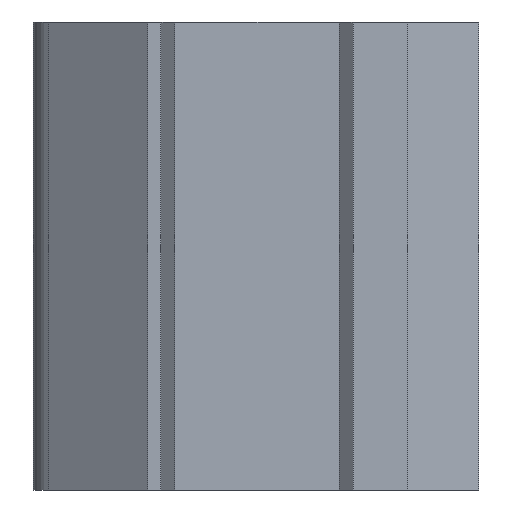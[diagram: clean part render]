
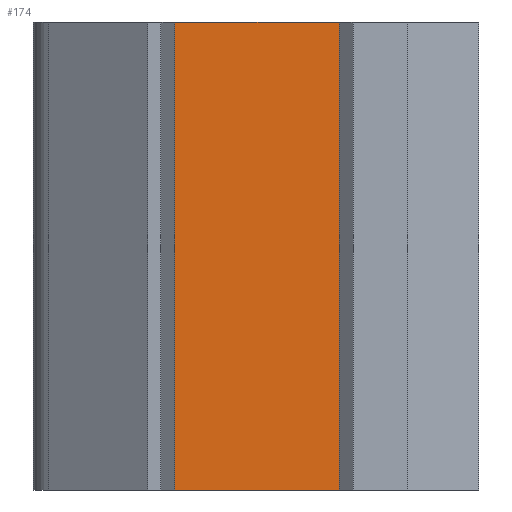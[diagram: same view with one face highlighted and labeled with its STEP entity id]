
A CAD part, left-side view. The second image highlights one B-rep face of the part: STEP entity #174.
In plain terms, the highlighted planar face has unit normal (-1, 0, 0).
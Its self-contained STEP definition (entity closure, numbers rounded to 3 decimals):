
#10 = EDGE_CURVE ( 'NONE', #1023, #119, #375, .T. ) ;
#18 = CARTESIAN_POINT ( 'NONE',  ( 1177.657, 138.008, -10. ) ) ;
#45 = CARTESIAN_POINT ( 'NONE',  ( 1177.657, 141.522, 0. ) ) ;
#53 = DIRECTION ( 'NONE',  ( 0., 0., 1. ) ) ;
#66 = CARTESIAN_POINT ( 'NONE',  ( 1177.657, 138.008, 0. ) ) ;
#95 = AXIS2_PLACEMENT_3D ( 'NONE', #1065, #599, #247 ) ;
#119 = VERTEX_POINT ( 'NONE', #45 ) ;
#141 = EDGE_CURVE ( 'NONE', #700, #1110, #500, .T. ) ;
#166 = CARTESIAN_POINT ( 'NONE',  ( 1177.657, 141.522, -10. ) ) ;
#174 = ADVANCED_FACE ( 'NONE', ( #335 ), #882, .T. ) ;
#247 = DIRECTION ( 'NONE',  ( 0., 0., 1. ) ) ;
#287 = CARTESIAN_POINT ( 'NONE',  ( 1177.657, 141.522, -10. ) ) ;
#318 = ORIENTED_EDGE ( 'NONE', *, *, #141, .T. ) ;
#335 = FACE_OUTER_BOUND ( 'NONE', #556, .T. ) ;
#375 = LINE ( 'NONE', #287, #528 ) ;
#428 = VECTOR ( 'NONE', #805, 1000. ) ;
#459 = LINE ( 'NONE', #18, #598 ) ;
#485 = EDGE_CURVE ( 'NONE', #1023, #700, #459, .T. ) ;
#500 = LINE ( 'NONE', #593, #616 ) ;
#528 = VECTOR ( 'NONE', #1133, 1000. ) ;
#556 = EDGE_LOOP ( 'NONE', ( #992, #951, #830, #318 ) ) ;
#570 = DIRECTION ( 'NONE',  ( 0., -1., 0. ) ) ;
#593 = CARTESIAN_POINT ( 'NONE',  ( 1177.657, 138.008, -10. ) ) ;
#598 = VECTOR ( 'NONE', #570, 1000. ) ;
#599 = DIRECTION ( 'NONE',  ( -1., 0., 0. ) ) ;
#616 = VECTOR ( 'NONE', #53, 1000. ) ;
#700 = VERTEX_POINT ( 'NONE', #1030 ) ;
#805 = DIRECTION ( 'NONE',  ( 0., -1., 0. ) ) ;
#830 = ORIENTED_EDGE ( 'NONE', *, *, #485, .T. ) ;
#882 = PLANE ( 'NONE',  #95 ) ;
#951 = ORIENTED_EDGE ( 'NONE', *, *, #10, .F. ) ;
#989 = LINE ( 'NONE', #66, #428 ) ;
#992 = ORIENTED_EDGE ( 'NONE', *, *, #1077, .F. ) ;
#1023 = VERTEX_POINT ( 'NONE', #166 ) ;
#1030 = CARTESIAN_POINT ( 'NONE',  ( 1177.657, 138.008, -10. ) ) ;
#1065 = CARTESIAN_POINT ( 'NONE',  ( 1177.657, 138.008, -10. ) ) ;
#1077 = EDGE_CURVE ( 'NONE', #119, #1110, #989, .T. ) ;
#1110 = VERTEX_POINT ( 'NONE', #1175 ) ;
#1133 = DIRECTION ( 'NONE',  ( 0., 0., 1. ) ) ;
#1175 = CARTESIAN_POINT ( 'NONE',  ( 1177.657, 138.008, 0. ) ) ;
